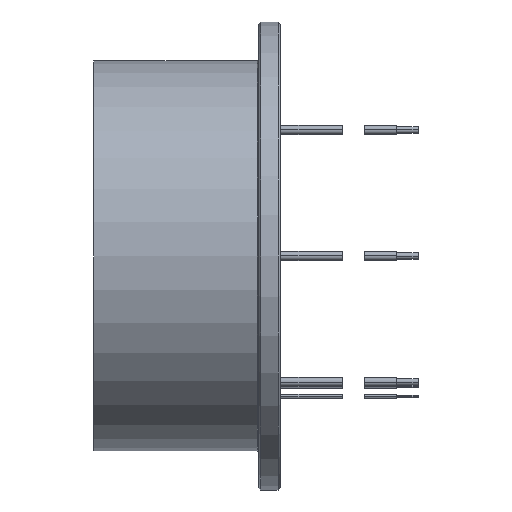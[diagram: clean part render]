
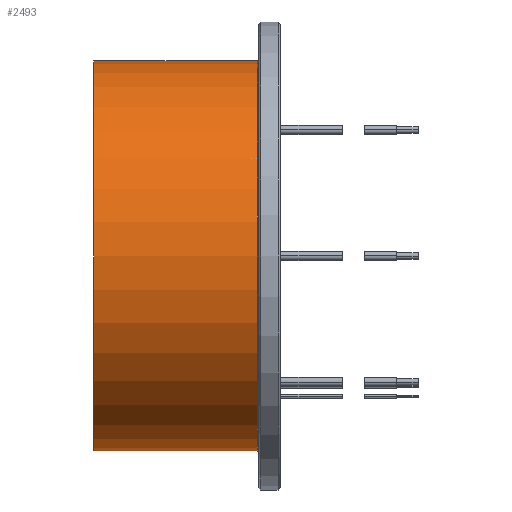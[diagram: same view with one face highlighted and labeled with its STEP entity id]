
A CAD part, front view. The second image highlights one B-rep face of the part: STEP entity #2493.
In plain terms, the highlighted cylindrical face has radius 45 mm (diameter 90 mm), a partial arc.
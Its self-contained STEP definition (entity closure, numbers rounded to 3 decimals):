
#855=CARTESIAN_POINT('',(-5.3,0.,0.));
#856=DIRECTION('',(-1.,0.,0.));
#857=DIRECTION('',(0.,0.,-1.));
#858=AXIS2_PLACEMENT_3D('',#855,#856,#857);
#871=DIRECTION('',(-1.,0.,0.));
#872=VECTOR('',#871,37.7);
#873=CARTESIAN_POINT('',(-5.3,0.,-45.));
#874=LINE('',#873,#872);
#878=DIRECTION('',(-1.,0.,0.));
#879=VECTOR('',#878,37.7);
#880=CARTESIAN_POINT('',(-5.3,0.,45.));
#881=LINE('',#880,#879);
#885=CARTESIAN_POINT('',(-43.,0.,0.));
#886=DIRECTION('',(1.,0.,0.));
#887=DIRECTION('',(0.,0.,1.));
#888=AXIS2_PLACEMENT_3D('',#885,#886,#887);
#1629=CARTESIAN_POINT('',(-43.,0.,45.));
#1630=CARTESIAN_POINT('',(-43.,0.,-45.));
#1631=VERTEX_POINT('',#1629);
#1632=VERTEX_POINT('',#1630);
#1635=CARTESIAN_POINT('',(-5.3,0.,-45.));
#1636=VERTEX_POINT('',#1635);
#1637=CARTESIAN_POINT('',(-5.3,0.,45.));
#1638=VERTEX_POINT('',#1637);
#2479=CARTESIAN_POINT('',(-45.15,0.,0.));
#2480=DIRECTION('',(1.,0.,0.));
#2481=DIRECTION('',(0.,0.,-1.));
#2482=AXIS2_PLACEMENT_3D('',#2479,#2480,#2481);
#2483=CYLINDRICAL_SURFACE('',#2482,45.);
#2485=ORIENTED_EDGE('',*,*,#2484,.T.);
#2487=ORIENTED_EDGE('',*,*,#2486,.F.);
#2489=ORIENTED_EDGE('',*,*,#2488,.F.);
#2490=ORIENTED_EDGE('',*,*,#2473,.F.);
#2491=EDGE_LOOP('',(#2485,#2487,#2489,#2490));
#2492=FACE_OUTER_BOUND('',#2491,.F.);
#2493=ADVANCED_FACE('',(#2492),#2483,.T.);
#859=CIRCLE('',#858,45.);
#889=CIRCLE('',#888,45.);
#2473=EDGE_CURVE('',#1636,#1638,#859,.T.);
#2484=EDGE_CURVE('',#1636,#1632,#874,.T.);
#2486=EDGE_CURVE('',#1631,#1632,#889,.T.);
#2488=EDGE_CURVE('',#1638,#1631,#881,.T.);
